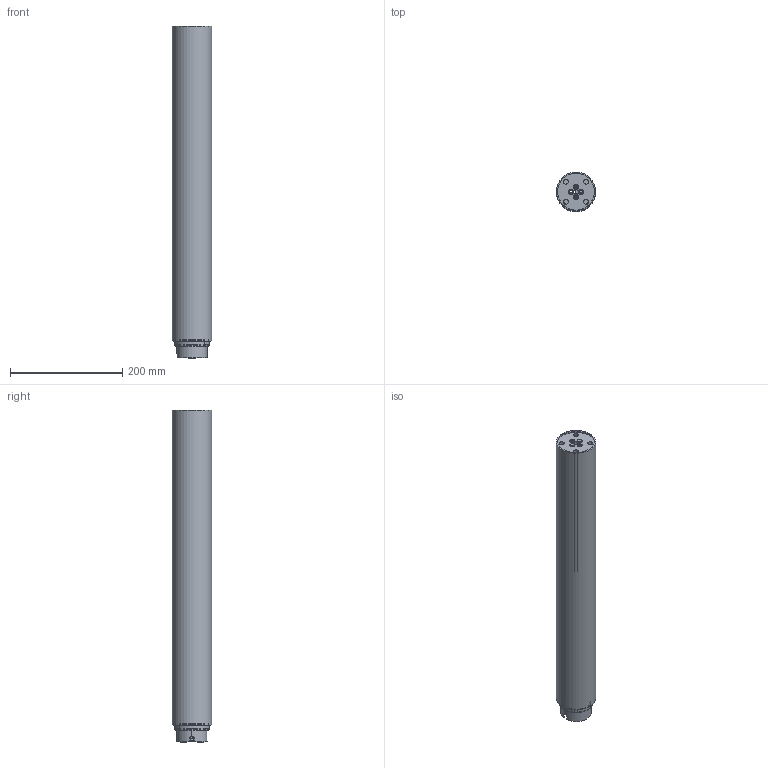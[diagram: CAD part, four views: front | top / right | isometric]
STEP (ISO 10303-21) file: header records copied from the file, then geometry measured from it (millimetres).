
FILE_DESCRIPTION (( 'STEP AP203' ), '1' );
FILE_NAME ('TL6.STEP', '2019-08-16T06:12:47', ( '' ), ( '' ), 'SwSTEP 2.0', 'SolidWorks 2015', '' );
FILE_SCHEMA (( 'CONFIG_CONTROL_DESIGN' ));
Length unit declared in the file: millimetre
Products named in the file (1): TL6
Bounding box: 69.73 x 69.73 x 592.5 mm (x, y, z)
Volume: 676909.6 mm3; surface area: 706468.3 mm2
Topology: 29 solids, 29 shells, 2575 faces, 6526 edges, 3916 vertices
Faces by surface type: cylinder 972, plane 536, bspline 484, cone 241, torus 210, sphere 132
Entity records: 119719 total; most frequent: CARTESIAN_POINT 62722, ORIENTED_EDGE 12876, DIRECTION 10957, EDGE_CURVE 6438, AXIS2_PLACEMENT_3D 4440, VERTEX_POINT 3916, EDGE_LOOP 2706, FACE_OUTER_BOUND 2575
